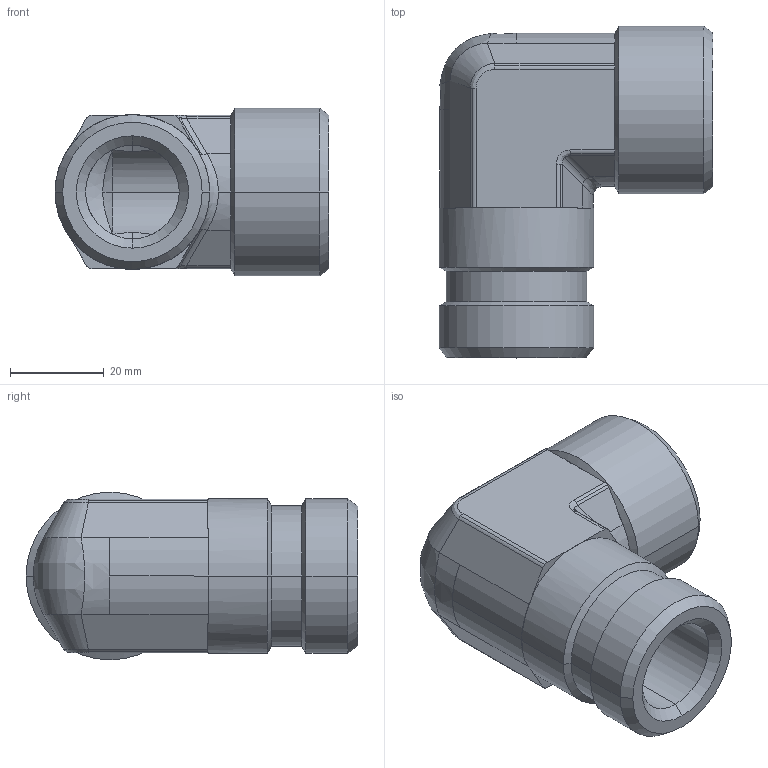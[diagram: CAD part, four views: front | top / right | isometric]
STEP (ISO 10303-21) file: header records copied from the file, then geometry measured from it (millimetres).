
FILE_DESCRIPTION((''),'2;1');
FILE_NAME('106121.stp','2007-10-31T14:49:05',(''),(''),'AutoCAD STEP 2000i','AutoCAD 2000i',', , ');
FILE_SCHEMA(('CONFIG_CONTROL_DESIGN'));
Length unit declared in the file: millimetre
Products named in the file (2): 106121.0; 3090#0
Assembly tree (1 placements, depth 2):
  106121.0
    3090#0
Bounding box: 58.53 x 70.91 x 35.82 mm (x, y, z)
Volume: 52077.7 mm3; surface area: 17401.3 mm2
Topology: 1 solids, 1 shells, 112 faces, 259 edges, 150 vertices
Faces by surface type: cylinder 48, plane 29, cone 23, bspline 12
Entity records: 4057 total; most frequent: CARTESIAN_POINT 1400, DIRECTION 570, ORIENTED_EDGE 518, EDGE_CURVE 259, AXIS2_PLACEMENT_3D 230, VERTEX_POINT 150, EDGE_LOOP 115, FACE_OUTER_BOUND 112
